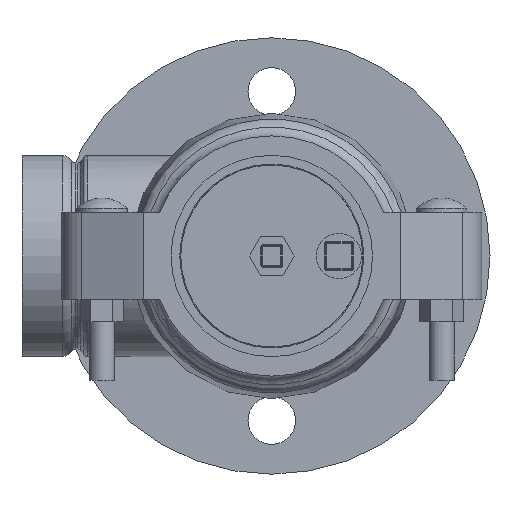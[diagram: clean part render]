
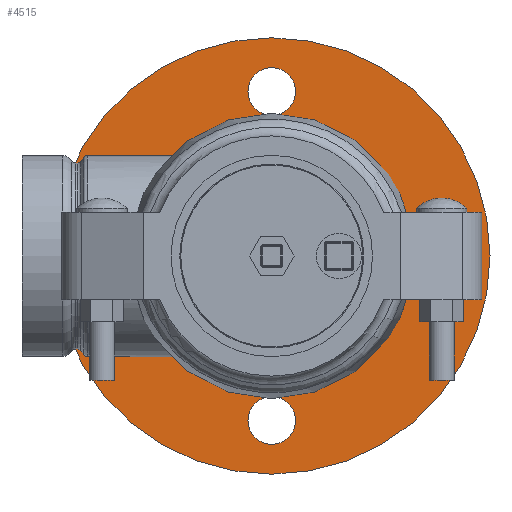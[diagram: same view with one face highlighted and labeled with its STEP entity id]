
A CAD part, left-side view. The second image highlights one B-rep face of the part: STEP entity #4515.
In plain terms, the highlighted planar face has unit normal (-1, 0, 0).
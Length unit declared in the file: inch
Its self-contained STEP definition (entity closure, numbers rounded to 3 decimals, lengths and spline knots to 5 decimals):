
#114=FACE_BOUND('',#1635,.T.);
#115=FACE_BOUND('',#1636,.T.);
#116=FACE_BOUND('',#1637,.T.);
#117=FACE_BOUND('',#1638,.T.);
#118=FACE_BOUND('',#1639,.T.);
#195=PLANE('',#5206);
#553=CIRCLE('',#5134,0.355);
#555=CIRCLE('',#5137,0.355);
#557=CIRCLE('',#5140,0.355);
#559=CIRCLE('',#5143,0.355);
#606=CIRCLE('',#5204,1.91259);
#607=CIRCLE('',#5205,1.91259);
#608=CIRCLE('',#5207,3.25);
#609=CIRCLE('',#5208,3.25);
#1382=FACE_OUTER_BOUND('',#1634,.T.);
#1634=EDGE_LOOP('',(#3968,#3969));
#1635=EDGE_LOOP('',(#3970));
#1636=EDGE_LOOP('',(#3971));
#1637=EDGE_LOOP('',(#3972));
#1638=EDGE_LOOP('',(#3973));
#1639=EDGE_LOOP('',(#3974,#3975));
#2036=VERTEX_POINT('',#8312);
#2038=VERTEX_POINT('',#8318);
#2040=VERTEX_POINT('',#8324);
#2042=VERTEX_POINT('',#8330);
#2082=VERTEX_POINT('',#8437);
#2083=VERTEX_POINT('',#8439);
#2084=VERTEX_POINT('',#8443);
#2085=VERTEX_POINT('',#8444);
#2660=EDGE_CURVE('',#2036,#2036,#553,.T.);
#2663=EDGE_CURVE('',#2038,#2038,#555,.T.);
#2666=EDGE_CURVE('',#2040,#2040,#557,.T.);
#2669=EDGE_CURVE('',#2042,#2042,#559,.T.);
#2722=EDGE_CURVE('',#2083,#2082,#606,.T.);
#2723=EDGE_CURVE('',#2082,#2083,#607,.T.);
#2724=EDGE_CURVE('',#2084,#2085,#608,.T.);
#2725=EDGE_CURVE('',#2085,#2084,#609,.T.);
#3968=ORIENTED_EDGE('',*,*,#2724,.F.);
#3969=ORIENTED_EDGE('',*,*,#2725,.F.);
#3970=ORIENTED_EDGE('',*,*,#2660,.T.);
#3971=ORIENTED_EDGE('',*,*,#2663,.T.);
#3972=ORIENTED_EDGE('',*,*,#2666,.T.);
#3973=ORIENTED_EDGE('',*,*,#2669,.T.);
#3974=ORIENTED_EDGE('',*,*,#2722,.T.);
#3975=ORIENTED_EDGE('',*,*,#2723,.T.);
#4515=ADVANCED_FACE('',(#1382,#114,#115,#116,#117,#118),#195,.T.);
#5134=AXIS2_PLACEMENT_3D('',#8314,#6464,#6465);
#5137=AXIS2_PLACEMENT_3D('',#8320,#6471,#6472);
#5140=AXIS2_PLACEMENT_3D('',#8326,#6478,#6479);
#5143=AXIS2_PLACEMENT_3D('',#8332,#6485,#6486);
#5204=AXIS2_PLACEMENT_3D('',#8440,#6613,#6614);
#5205=AXIS2_PLACEMENT_3D('',#8441,#6615,#6616);
#5206=AXIS2_PLACEMENT_3D('',#8442,#6617,#6618);
#5207=AXIS2_PLACEMENT_3D('',#8445,#6619,#6620);
#5208=AXIS2_PLACEMENT_3D('',#8446,#6621,#6622);
#6464=DIRECTION('center_axis',(1.,0.,0.));
#6465=DIRECTION('ref_axis',(0.,1.,0.));
#6471=DIRECTION('center_axis',(1.,0.,0.));
#6472=DIRECTION('ref_axis',(0.,0.,-1.));
#6478=DIRECTION('center_axis',(1.,0.,0.));
#6479=DIRECTION('ref_axis',(0.,-1.,0.));
#6485=DIRECTION('center_axis',(1.,0.,0.));
#6486=DIRECTION('ref_axis',(0.,0.,1.));
#6613=DIRECTION('center_axis',(1.,0.,0.));
#6614=DIRECTION('ref_axis',(0.,0.,-1.));
#6615=DIRECTION('center_axis',(1.,0.,0.));
#6616=DIRECTION('ref_axis',(0.,0.,-1.));
#6617=DIRECTION('center_axis',(-1.,0.,0.));
#6618=DIRECTION('ref_axis',(0.,0.,1.));
#6619=DIRECTION('center_axis',(1.,0.,0.));
#6620=DIRECTION('ref_axis',(0.,0.,-1.));
#6621=DIRECTION('center_axis',(1.,0.,0.));
#6622=DIRECTION('ref_axis',(0.,0.,-1.));
#8312=CARTESIAN_POINT('',(1.165,-0.355,-2.45));
#8314=CARTESIAN_POINT('Origin',(1.165,0.,-2.45));
#8318=CARTESIAN_POINT('',(1.165,-2.45,0.355));
#8320=CARTESIAN_POINT('Origin',(1.165,-2.45,0.));
#8324=CARTESIAN_POINT('',(1.165,0.355,2.45));
#8326=CARTESIAN_POINT('Origin',(1.165,0.,2.45));
#8330=CARTESIAN_POINT('',(1.165,2.45,-0.355));
#8332=CARTESIAN_POINT('Origin',(1.165,2.45,0.));
#8437=CARTESIAN_POINT('',(1.165,0.,1.91259));
#8439=CARTESIAN_POINT('',(1.165,1.91259,0.));
#8440=CARTESIAN_POINT('Origin',(1.165,0.,0.));
#8441=CARTESIAN_POINT('Origin',(1.165,0.,0.));
#8442=CARTESIAN_POINT('Origin',(1.165,3.25,0.));
#8443=CARTESIAN_POINT('',(1.165,3.25,0.));
#8444=CARTESIAN_POINT('',(1.165,-3.25,0.));
#8445=CARTESIAN_POINT('Origin',(1.165,0.,0.));
#8446=CARTESIAN_POINT('Origin',(1.165,0.,0.));
